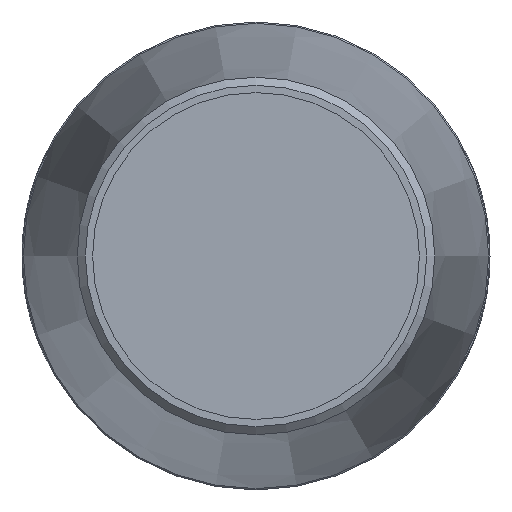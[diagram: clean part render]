
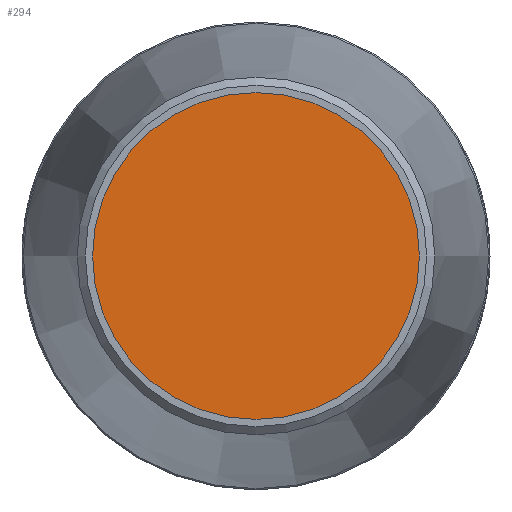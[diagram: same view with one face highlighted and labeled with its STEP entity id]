
A CAD part, left-side view. The second image highlights one B-rep face of the part: STEP entity #294.
In plain terms, the highlighted planar face has unit normal (-1, 0, 0).
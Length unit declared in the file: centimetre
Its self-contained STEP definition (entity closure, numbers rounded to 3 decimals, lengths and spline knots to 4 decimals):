
#48=PLANE('',#329);
#77=FACE_OUTER_BOUND('',#108,.T.);
#108=EDGE_LOOP('',(#214));
#134=CIRCLE('',#328,2.2);
#148=VERTEX_POINT('',#455);
#174=EDGE_CURVE('',#148,#148,#134,.T.);
#214=ORIENTED_EDGE('',*,*,#174,.T.);
#294=ADVANCED_FACE('',(#77),#48,.T.);
#328=AXIS2_PLACEMENT_3D('',#456,#387,#388);
#329=AXIS2_PLACEMENT_3D('',#457,#389,#390);
#387=DIRECTION('center_axis',(-1.,0.,0.));
#388=DIRECTION('ref_axis',(0.,0.,1.));
#389=DIRECTION('center_axis',(-1.,0.,0.));
#390=DIRECTION('ref_axis',(0.,0.,1.));
#455=CARTESIAN_POINT('',(-15.55,-2.2,0.));
#456=CARTESIAN_POINT('Origin',(-15.55,0.,0.));
#457=CARTESIAN_POINT('Origin',(-15.55,0.,0.));
